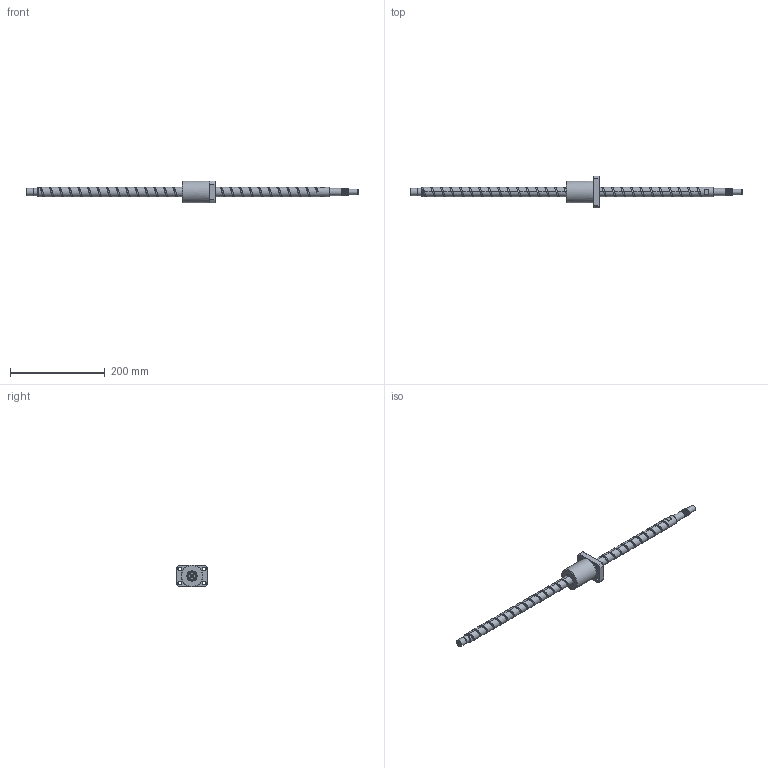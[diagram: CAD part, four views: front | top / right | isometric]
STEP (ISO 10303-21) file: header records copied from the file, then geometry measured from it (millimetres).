
FILE_DESCRIPTION (( 'STEP AP203' ), '1' );
FILE_NAME ('XSVR02020A1DGC5-699-P1.step', '2024-06-03T06:48:52', ( '' ), ( '' ), 'SwSTEP 2.0', 'SolidWorks 2022', '' );
FILE_SCHEMA (( 'CONFIG_CONTROL_DESIGN' ));
Length unit declared in the file: millimetre
Products named in the file (1): XSVR02020A1DGC5-699-P1
Bounding box: 699 x 66 x 46 mm (x, y, z)
Volume: 303360.6 mm3; surface area: 67760.5 mm2
Topology: 2 solids, 2 shells, 186 faces, 508 edges, 334 vertices
Faces by surface type: cylinder 88, plane 40, bspline 29, cone 20, torus 9
Full cylindrical faces by diameter (mm): 4 x1, 5 x15, 6.6 x4, 11 x4, 12 x1, 14.3 x1, 15 x16, 20 x30, 22.1 x1, 46 x1
Entity records: 25512 total; most frequent: CARTESIAN_POINT 22894, ORIENTED_EDGE 576, DIRECTION 407, EDGE_CURVE 288, VERTEX_POINT 206, EDGE_LOOP 184, AXIS2_PLACEMENT_3D 178, FACE_OUTER_BOUND 146
